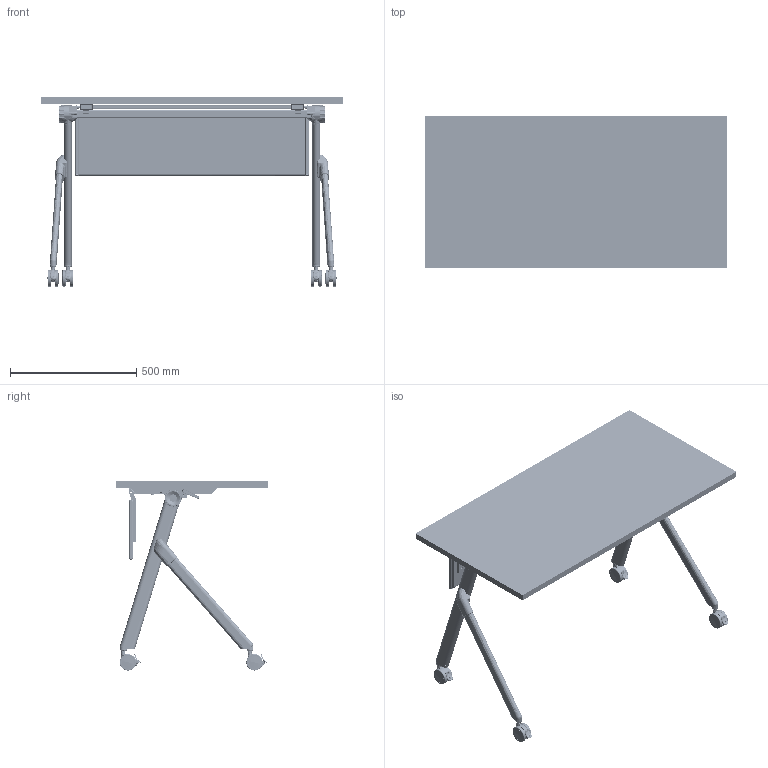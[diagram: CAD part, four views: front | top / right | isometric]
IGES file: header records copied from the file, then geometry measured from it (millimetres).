
Global section: file name: 兰迪,48H; native system: AutoCAD 2023 - 简体中文 (Simplified Chinese); preprocessor: Autodesk Translation Framework DWG producer (atf_dwg_producer); organization: unknown; date: 20231218.103654; units: millimetre
Bounding box: 1200 x 600 x 750.02 mm (x, y, z)
Volume: 21545659.1 mm3; surface area: 4586304.8 mm2
Topology: 104 solids, 104 shells, 9336 faces, 24235 edges, 15434 vertices
Faces by surface type: bspline 9336
